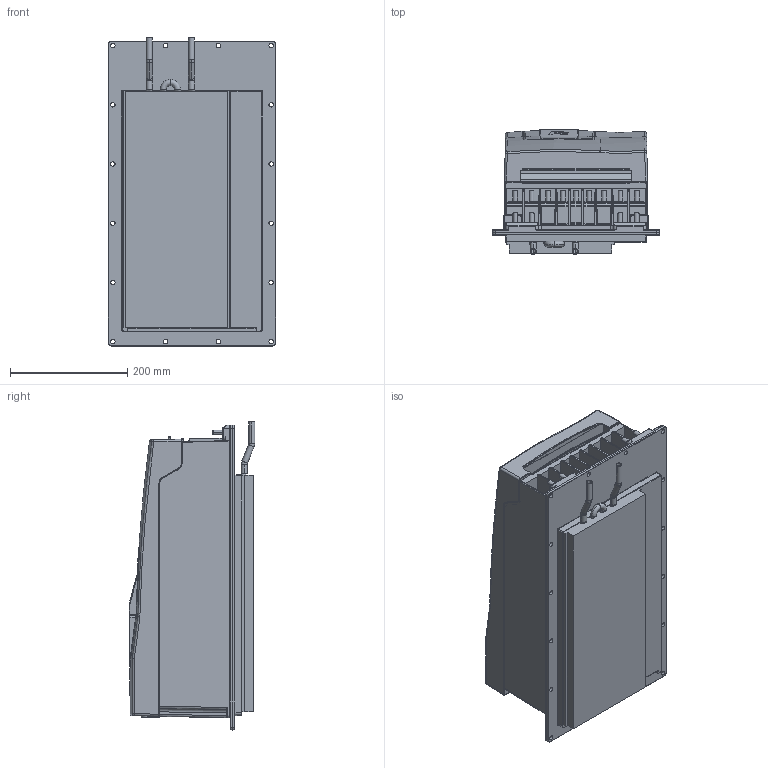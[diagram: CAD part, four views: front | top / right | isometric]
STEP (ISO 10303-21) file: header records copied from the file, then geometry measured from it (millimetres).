
FILE_DESCRIPTION (( 'STEP AP214' ), '1' );
FILE_NAME ('F6-6 TW5-A010.STEP', '2020-12-09T14:31:43', ( '' ), ( '' ), 'SwSTEP 2.0', 'SolidWorks 2019', '' );
FILE_SCHEMA (( 'AUTOMOTIVE_DESIGN' ));
Length unit declared in the file: millimetre
Products named in the file (11): 10060787_000; 10059764_000_Blindabdeckung (Kundenmodell); 10044643_000_Kundenmodell; 10061794_000; 10059761_000; 10059765_000; 10061793_000_Deckelbaugruppe F6-6 (Kundenmodell); 10062206_000; 10027052_000_Geh„usebaugruppe F6-6 (Kundenmodell); 10046078_000_Leistungsteil F6-6 TW5 (Kundenmodell); F6-6 TW5-A010
Assembly tree (10 placements, depth 4):
  F6-6 TW5-A010
    10046078_000_Leistungsteil F6-6 TW5 (Kundenmodell)
      10062206_000
    10044643_000_Kundenmodell
      10059764_000_Blindabdeckung (Kundenmodell)
        10059765_000
      10059761_000
    10027052_000_Geh„usebaugruppe F6-6 (Kundenmodell)
      10061793_000_Deckelbaugruppe F6-6 (Kundenmodell)
        10061794_000
      10060787_000
Bounding box: 285 x 214.1 x 525.5 mm (x, y, z)
Volume: 20593136.9 mm3; surface area: 1266962 mm2
Topology: 12 solids, 26 shells, 3159 faces, 8019 edges, 4831 vertices
Faces by surface type: cylinder 1088, plane 1050, bspline 636, torus 187, sphere 108, cone 90
Entity records: 107999 total; most frequent: CARTESIAN_POINT 37398, ORIENTED_EDGE 15718, DIRECTION 13608, EDGE_CURVE 7859, AXIS2_PLACEMENT_3D 4961, VERTEX_POINT 4829, LINE 3686, VECTOR 3686
